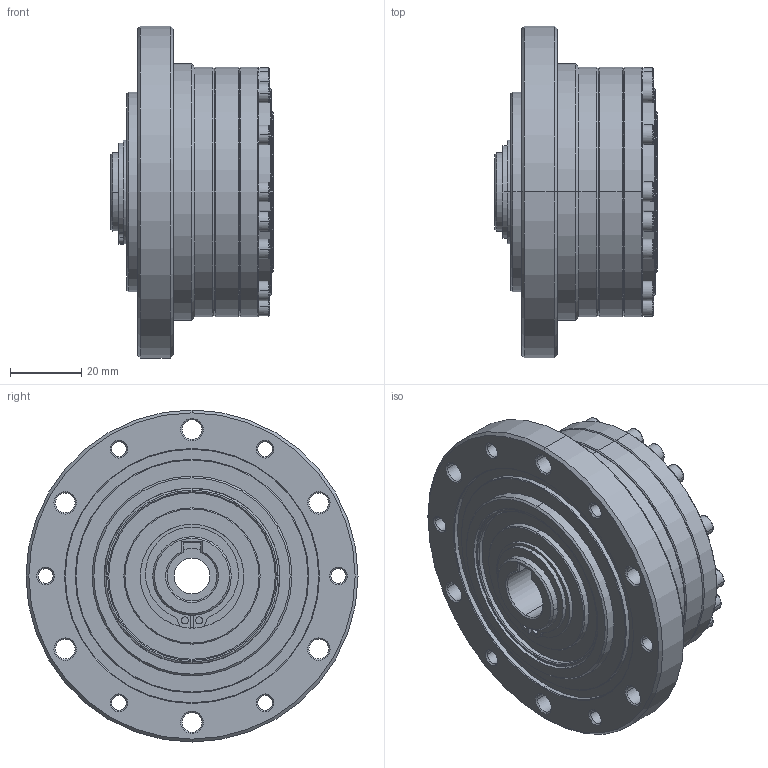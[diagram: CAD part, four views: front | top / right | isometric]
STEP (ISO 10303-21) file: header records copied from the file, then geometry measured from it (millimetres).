
FILE_DESCRIPTION(('STEP AP214'),'1');
FILE_NAME('cctmp_D7680C83-D2EB-4FB2-A135-6A24C76C471C_2025_03_06_11_17_45_0840_140080..stp','2025-03-06T10:17:46',('HIWIN GmbH'),('CADClick - www.CADClick.com'),'Spatial InterOp 3D',' ','unknown authorization');
FILE_SCHEMA(('AUTOMOTIVE_DESIGN'));
Length unit declared in the file: millimetre
Products named in the file (2): DSC-20-XX-PO-C_FILE; 2025_03_06_11_17_45_0825
Assembly tree (1 placements, depth 2):
  DSC-20-XX-PO-C_FILE
    2025_03_06_11_17_45_0825
Bounding box: 45.5 x 93 x 93 mm (x, y, z)
Volume: 166350.1 mm3; surface area: 32073.2 mm2
Topology: 1 solids, 1 shells, 568 faces, 1416 edges, 905 vertices
Faces by surface type: plane 198, cylinder 152, cone 142, torus 76
Entity records: 22741 total; most frequent: CARTESIAN_POINT 4125, DIRECTION 3184, ORIENTED_EDGE 2832, EDGE_CURVE 1416, AXIS2_PLACEMENT_3D 1290, VERTEX_POINT 905, CIRCLE 720, EDGE_LOOP 649
